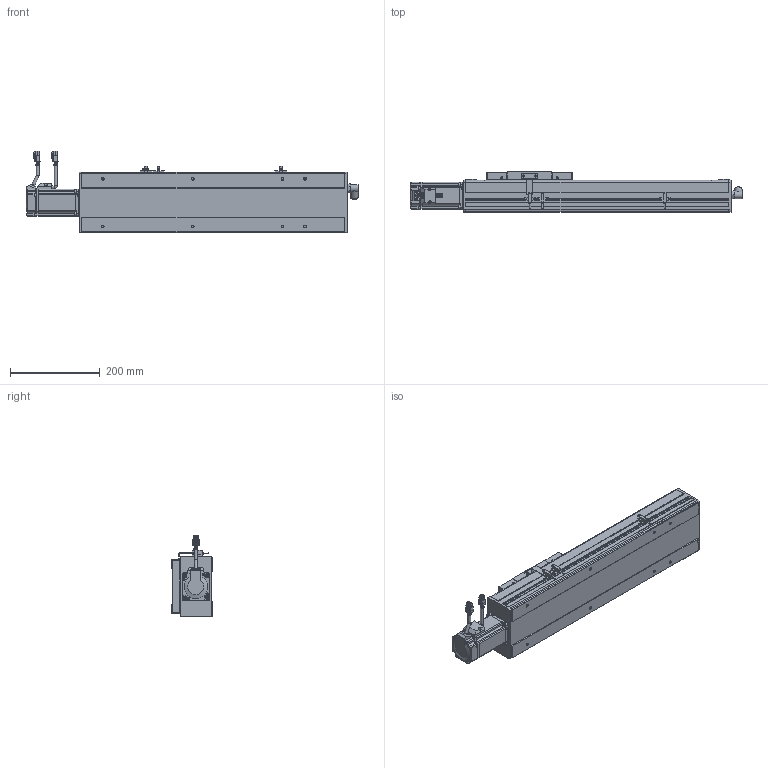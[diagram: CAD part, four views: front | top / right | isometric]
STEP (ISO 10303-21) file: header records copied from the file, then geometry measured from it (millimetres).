
FILE_DESCRIPTION(/* description */ ('STEP AP214'),/* implementation_level */ '2;1');
FILE_NAME(/* name */ 'PSC140-L05-S300-BC-P40-C1-N(0)',/* time_stamp */ '2022-06-13T03:13:23+02:00',/* author */ ('License CC BY-ND 4.0'),/* organization */ ('CADENAS'),/* preprocessor_version */ 'ST-DEVELOPER v18.102',/* originating_system */ 'PARTsolutions',/* authorisation */ ' ');
FILE_SCHEMA (('AUTOMOTIVE_DESIGN {1 0 10303 214 3 1 1}'));
Length unit declared in the file: millimetre
Products named in the file (10): PSC140-L05-S300-BC-P40-C1-N(0); P40-s2; P40-c2; P40-s1; P40-c1; P40-p1; PSC140-sensor; PSC140-BC-SLIDER; PSC140-S300-BC-P40-C1_BODY1; PSC140-L05-S300-BC-P40-C1-N(0)_dummy
Assembly tree (11 placements, depth 2):
  PSC140-L05-S300-BC-P40-C1-N(0)
    P40-s2
    P40-c2
    P40-s1
    P40-c1
    P40-p1
    PSC140-sensor  x3
    PSC140-BC-SLIDER
    PSC140-S300-BC-P40-C1_BODY1
    PSC140-L05-S300-BC-P40-C1-N(0)_dummy
Bounding box: 739 x 91 x 182.48 mm (x, y, z)
Volume: 6410870.5 mm3; surface area: 425024 mm2
Topology: 10 solids, 10 shells, 1238 faces, 3200 edges, 2115 vertices
Faces by surface type: plane 862, cylinder 313, cone 44, torus 19
Full cylindrical faces by diameter (mm): 1 x8, 2.6 x10, 2.8 x3, 3.3 x8, 4.5 x12, 4.6 x3, 4.917 x12, 5 x4, 5.5 x8, 6 x10, 6.08 x4, 7 x10, 9 x2, 10 x1, 11 x1, 13.74 x1, 14 x1, 16.4 x2, 16.5 x1, 19.98 x1, 31.98 x1, 35.5 x1, 50 x2
Entity records: 34238 total; most frequent: CARTESIAN_POINT 5983, DIRECTION 5755, ORIENTED_EDGE 5558, EDGE_CURVE 2779, LINE 2109, VECTOR 2109, VERTEX_POINT 1936, AXIS2_PLACEMENT_3D 1823
